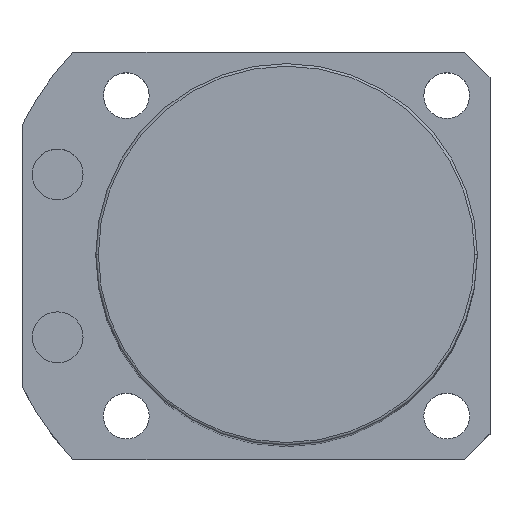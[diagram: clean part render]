
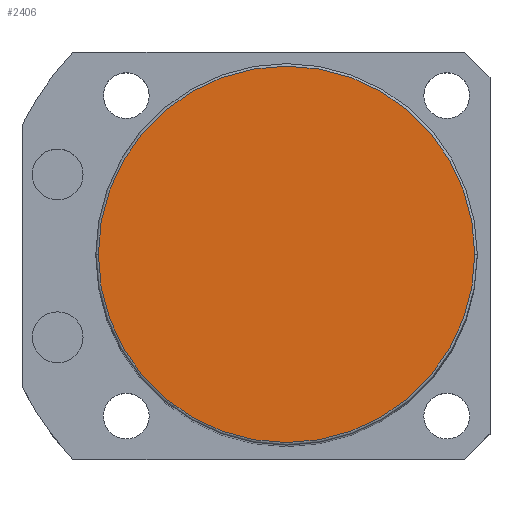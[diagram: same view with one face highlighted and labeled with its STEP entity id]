
A CAD part, top view. The second image highlights one B-rep face of the part: STEP entity #2406.
In plain terms, the highlighted planar face has unit normal (0, 0, 1).
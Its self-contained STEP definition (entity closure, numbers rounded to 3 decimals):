
#156 = CARTESIAN_POINT ( 'NONE',  ( 0., 0., 185.5 ) ) ;
#306 = AXIS2_PLACEMENT_3D ( 'NONE', #2422, #1669, #721 ) ;
#432 = AXIS2_PLACEMENT_3D ( 'NONE', #156, #733, #2249 ) ;
#434 = VERTEX_POINT ( 'NONE', #512 ) ;
#512 = CARTESIAN_POINT ( 'NONE',  ( -37., 0., 185.5 ) ) ;
#533 = ORIENTED_EDGE ( 'NONE', *, *, #2287, .T. ) ;
#668 = ORIENTED_EDGE ( 'NONE', *, *, #2238, .T. ) ;
#710 = AXIS2_PLACEMENT_3D ( 'NONE', #1877, #1651, #1658 ) ;
#721 = DIRECTION ( 'NONE',  ( 1., 0., 0. ) ) ;
#733 = DIRECTION ( 'NONE',  ( 0., 0., 1. ) ) ;
#1246 = VERTEX_POINT ( 'NONE', #1777 ) ;
#1286 = FACE_OUTER_BOUND ( 'NONE', #2270, .T. ) ;
#1315 = CIRCLE ( 'NONE', #710, 37. ) ;
#1413 = CIRCLE ( 'NONE', #306, 37. ) ;
#1498 = PLANE ( 'NONE',  #432 ) ;
#1651 = DIRECTION ( 'NONE',  ( 0., 0., 1. ) ) ;
#1658 = DIRECTION ( 'NONE',  ( 1., 0., 0. ) ) ;
#1669 = DIRECTION ( 'NONE',  ( 0., 0., 1. ) ) ;
#1777 = CARTESIAN_POINT ( 'NONE',  ( 37., 0., 185.5 ) ) ;
#1877 = CARTESIAN_POINT ( 'NONE',  ( 0., 0., 185.5 ) ) ;
#2238 = EDGE_CURVE ( 'NONE', #1246, #434, #1315, .T. ) ;
#2249 = DIRECTION ( 'NONE',  ( 1., 0., 0. ) ) ;
#2270 = EDGE_LOOP ( 'NONE', ( #668, #533 ) ) ;
#2287 = EDGE_CURVE ( 'NONE', #434, #1246, #1413, .T. ) ;
#2406 = ADVANCED_FACE ( 'NONE', ( #1286 ), #1498, .T. ) ;
#2422 = CARTESIAN_POINT ( 'NONE',  ( 0., 0., 185.5 ) ) ;
